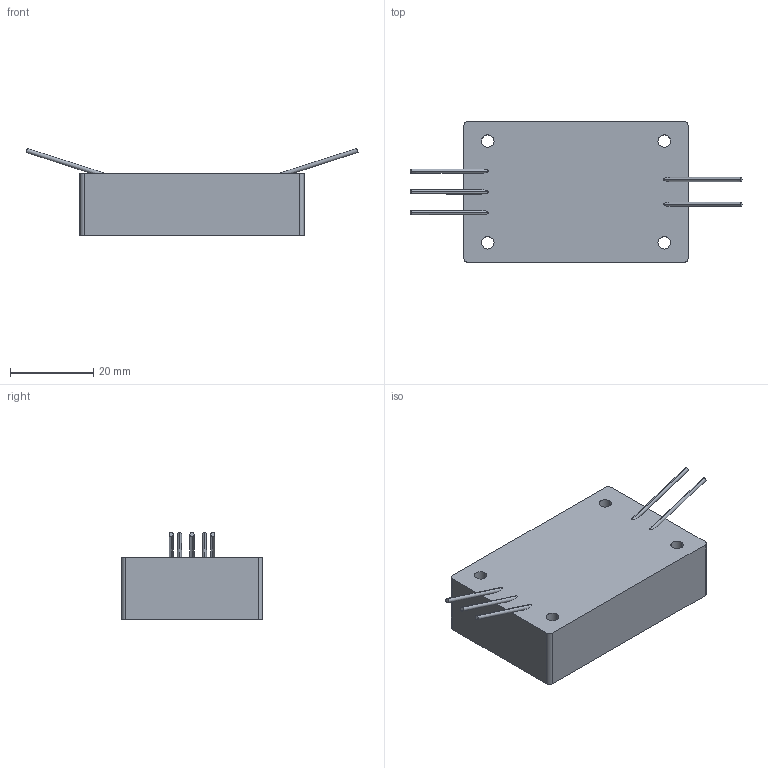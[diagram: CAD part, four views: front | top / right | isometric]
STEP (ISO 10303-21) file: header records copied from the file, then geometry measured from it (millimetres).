
FILE_DESCRIPTION( ( '' ), '1' );
FILE_NAME( '//partserver002.servicenet/client_exchange/iodir/jobs/output/wkb6670836_no0/STEP/cr3004_2_03.stp', '2007-03-28T08:23:33', ( '' ), ( '' ), ' ', ' ', ' ' );
FILE_SCHEMA( ( 'CONFIG_CONTROL_DESIGN' ) );
Length unit declared in the file: millimetre
Products named in the file (1): 1
Bounding box: 80 x 34 x 20.95 mm (x, y, z)
Volume: 27057.9 mm3; surface area: 7085 mm2
Topology: 1 solids, 1 shells, 42 faces, 102 edges, 68 vertices
Faces by surface type: cylinder 26, plane 16
Entity records: 1318 total; most frequent: DIRECTION 240, CARTESIAN_POINT 213, ORIENTED_EDGE 204, EDGE_CURVE 102, AXIS2_PLACEMENT_3D 95, VERTEX_POINT 68, EDGE_LOOP 56, LINE 50
